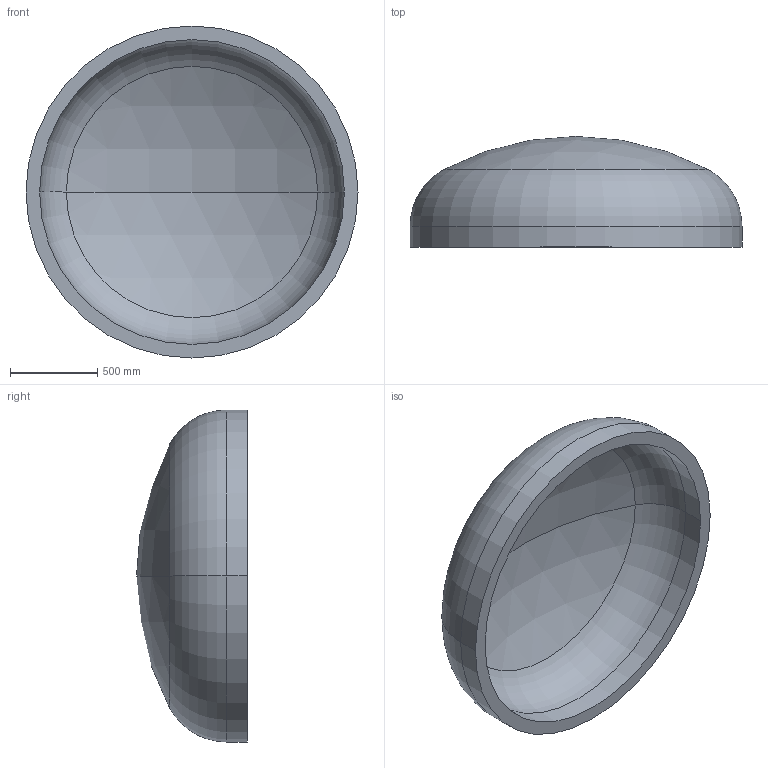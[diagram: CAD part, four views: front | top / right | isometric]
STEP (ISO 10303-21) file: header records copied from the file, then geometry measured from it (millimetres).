
FILE_DESCRIPTION (( 'STEP AP203' ), '1' );
FILE_NAME ('DIN 28013 Korbbogenform_-_Boden DIN 28013 - 1900 x 120 - I - s=78.step', '2016-07-01T13:20:09', ( '' ), ( '' ), 'SwSTEP 2.0', 'SolidWorks 2013', '' );
FILE_SCHEMA (( 'CONFIG_CONTROL_DESIGN' ));
Length unit declared in the file: millimetre
Products named in the file (1): DIN 28013 Korbbogenform_-_Boden DIN 28013 - 1900 x 120 - I - s=78
Bounding box: 1900 x 634.41 x 1900 mm (x, y, z)
Volume: 343492352.1 mm3; surface area: 9266706.6 mm2
Topology: 1 solids, 1 shells, 13 faces, 24 edges, 14 vertices
Faces by surface type: torus 4, cylinder 4, sphere 4, plane 1
Entity records: 407 total; most frequent: DIRECTION 72, CARTESIAN_POINT 52, ORIENTED_EDGE 48, AXIS2_PLACEMENT_3D 34, EDGE_CURVE 24, CIRCLE 20, EDGE_LOOP 14, VERTEX_POINT 14
